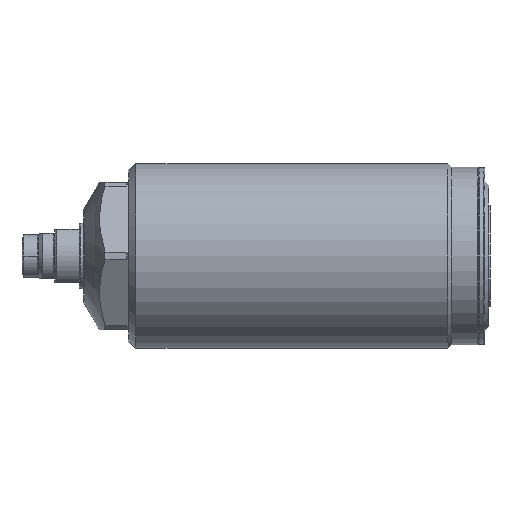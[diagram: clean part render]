
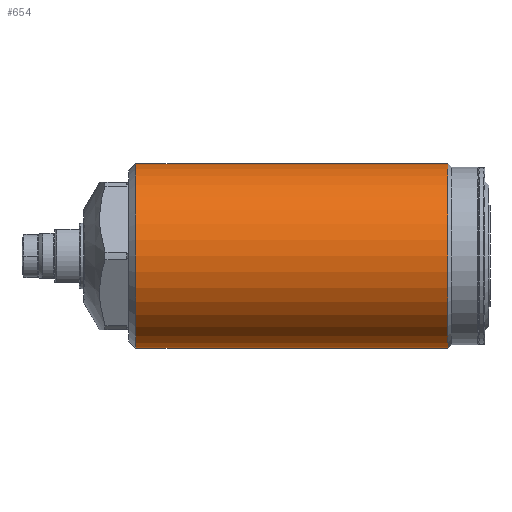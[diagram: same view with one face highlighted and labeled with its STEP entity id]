
A CAD part, left-side view. The second image highlights one B-rep face of the part: STEP entity #654.
In plain terms, the highlighted cylindrical face has radius 22.5 mm (diameter 45 mm), a partial arc.
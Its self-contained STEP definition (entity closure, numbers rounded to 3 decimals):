
#331=CYLINDRICAL_SURFACE('',#2759,22.5);
#418=LINE('',#4006,#530);
#419=LINE('',#4007,#531);
#530=VECTOR('',#3142,1.);
#531=VECTOR('',#3143,1.);
#654=ADVANCED_FACE('',(#847),#331,.T.);
#847=FACE_OUTER_BOUND('',#991,.T.);
#991=EDGE_LOOP('',(#1275,#1276,#1277,#1278));
#1275=ORIENTED_EDGE('',*,*,#2147,.T.);
#1276=ORIENTED_EDGE('',*,*,#2210,.T.);
#1277=ORIENTED_EDGE('',*,*,#2148,.F.);
#1278=ORIENTED_EDGE('',*,*,#2211,.T.);
#1911=VERTEX_POINT('',#3986);
#1912=VERTEX_POINT('',#3988);
#1917=VERTEX_POINT('',#4004);
#1918=VERTEX_POINT('',#4005);
#2147=EDGE_CURVE('',#1912,#1918,#418,.T.);
#2148=EDGE_CURVE('',#1911,#1917,#419,.T.);
#2210=EDGE_CURVE('',#1918,#1917,#2528,.T.);
#2211=EDGE_CURVE('',#1911,#1912,#2529,.T.);
#2528=CIRCLE('',#2756,22.5);
#2529=CIRCLE('',#2758,22.5);
#2756=AXIS2_PLACEMENT_3D('',#4189,#3232,#3233);
#2758=AXIS2_PLACEMENT_3D('',#4191,#3236,#3237);
#2759=AXIS2_PLACEMENT_3D('',#4192,#3238,#3239);
#3142=DIRECTION('',(0.,1.,0.));
#3143=DIRECTION('',(0.,1.,0.));
#3232=DIRECTION('',(0.,-1.,0.));
#3233=DIRECTION('',(0.,0.,1.));
#3236=DIRECTION('',(0.,1.,0.));
#3237=DIRECTION('',(0.,0.,-1.));
#3238=DIRECTION('',(0.,-1.,0.));
#3239=DIRECTION('',(0.,0.,1.));
#3986=CARTESIAN_POINT('',(0.,7.5,-22.5));
#3988=CARTESIAN_POINT('',(0.,7.5,22.5));
#4004=CARTESIAN_POINT('',(0.,83.45,-22.5));
#4005=CARTESIAN_POINT('',(0.,83.45,22.5));
#4006=CARTESIAN_POINT('',(0.,96.2,22.5));
#4007=CARTESIAN_POINT('',(0.,96.2,-22.5));
#4189=CARTESIAN_POINT('',(0.,83.45,0.));
#4191=CARTESIAN_POINT('',(0.,7.5,0.));
#4192=CARTESIAN_POINT('',(0.,96.2,0.));
